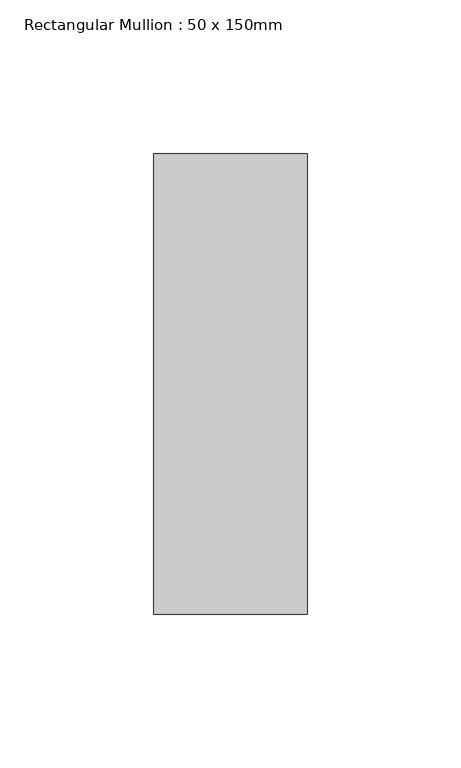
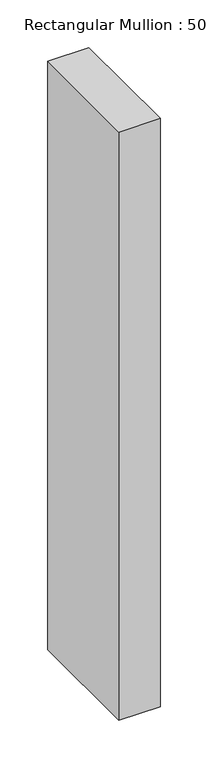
"""IFC4 building model written with IfcOpenShell, lengths in millimetres: member geometry, Rectangular Mullion : 50 x 150mm."""

from ifc_helpers import new_model, si_unit, frame, origin, place, context, project, spatial, polyline, outline, extrude, source, transform, mapped, element, save


def rectangular_mullion_50_x_150mm_77bbb7d4(model_context):
    return source(origin(), model_context, "Body", "SweptSolid", [
        extrude(outline(polyline([(0.0, 75.0), (0.0, -75.0), (-50.0, -75.0), (-50.0, 75.0), (0.0, 75.0)])), frame((0.0, 0.0, -755.0), z_axis=(0.0, 0.0, 1.0), x_axis=(1.0, 0.0, 0.0)), (0.0, 0.0, 1.0), 755.0),
    ])


if __name__ == "__main__":
    model = new_model("IFC4")
    model_context = context("Model", 3, world=origin())
    ifc_project = project(units=[si_unit("LENGTHUNIT", "METRE", prefix="MILLI")], contexts=[model_context])
    site = spatial("IfcSite", under=ifc_project)
    building = spatial("IfcBuilding", under=site)
    placement = place(None, origin())
    rectangular_mullion_50_x_150mm_shape = rectangular_mullion_50_x_150mm_77bbb7d4(model_context)
    element("IfcMember", 1, ObjectType="Rectangular Mullion : 50 x 150mm", at=placement, inside=building, context=model_context, shape_type="MappedRepresentation", body=[
        mapped(rectangular_mullion_50_x_150mm_shape, transform((0.0, 0.0, 0.0), x_axis=(1.0, 0.0, 0.0), y_axis=(0.0, 1.0, 0.0), z_axis=(0.0, 0.0, 1.0))),
    ])
    save(model, "model.ifc")
